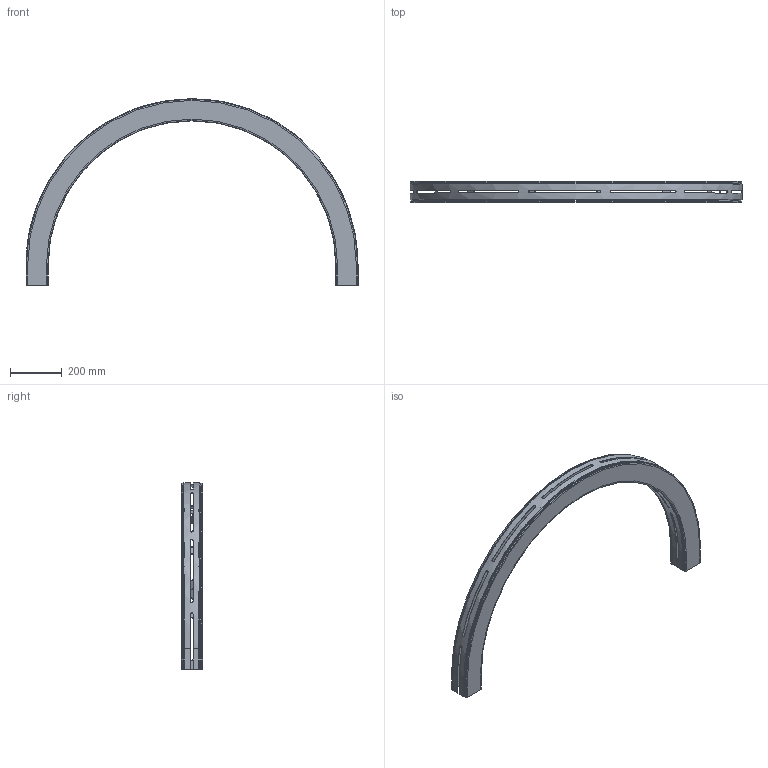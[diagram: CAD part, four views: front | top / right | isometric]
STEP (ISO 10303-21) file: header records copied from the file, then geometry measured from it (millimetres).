
FILE_DESCRIPTION((''),'2;1');
FILE_NAME('C:\Vault Klient\Projekt\Koncept konstruktion\Serie 530 Balk\530-5370.stp','2010-12-01T08:23:28',('Mathias'),(''),'Autodesk Inventor 2011','Autodesk Inventor 2011','');
FILE_SCHEMA(('AUTOMOTIVE_DESIGN { 1 0 10303 214 1 1 1 1 }'));
Length unit declared in the file: millimetre
Products named in the file (1): 530-5370
Bounding box: 1286 x 82 x 723 mm (x, y, z)
Volume: 2958373.4 mm3; surface area: 1410228.8 mm2
Topology: 2 solids, 2 shells, 203 faces, 578 edges, 380 vertices
Faces by surface type: plane 127, bspline 38, cylinder 30, torus 4, cone 4
Entity records: 7982 total; most frequent: CARTESIAN_POINT 2708, ORIENTED_EDGE 1156, DIRECTION 958, EDGE_CURVE 578, VERTEX_POINT 380, VECTOR 378, LINE 378, AXIS2_PLACEMENT_3D 290
